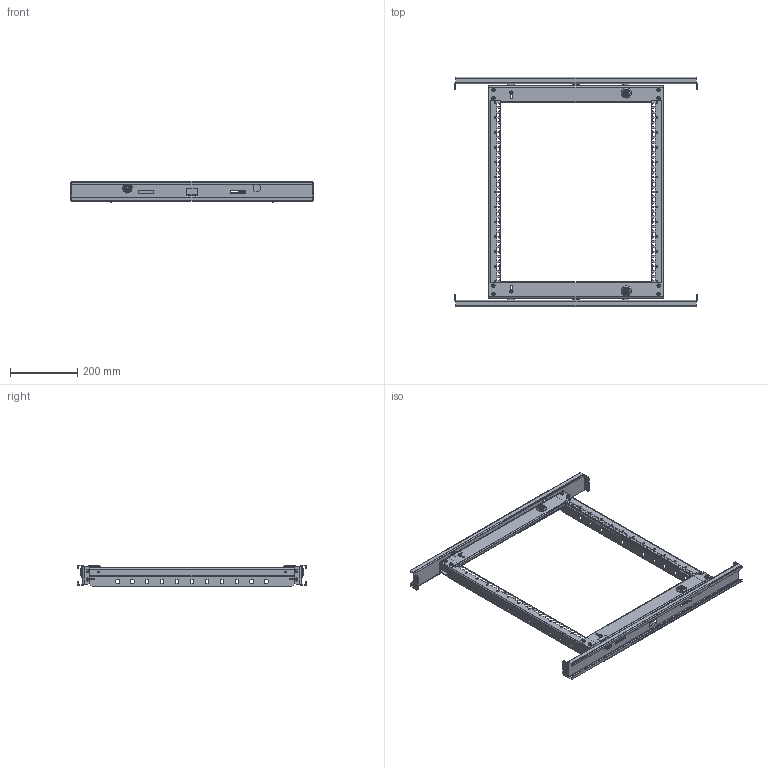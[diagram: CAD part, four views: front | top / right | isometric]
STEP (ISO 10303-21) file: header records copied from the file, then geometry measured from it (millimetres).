
FILE_DESCRIPTION (( 'STEP AP203' ), '1' );
FILE_NAME ('Ðàìà 19 ïîâîðîòíàÿ ÷àñòè÷íàÿ MC 80.80 IRP.STEP', '2024-02-22T17:51:32', ( '' ), ( '' ), 'SwSTEP 2.0', 'SolidWorks 2022', '' );
FILE_SCHEMA (( 'CONFIG_CONTROL_DESIGN' ));
Length unit declared in the file: millimetre
Products named in the file (17): Гайка замка 1000-111-JB; MC 180.60 R 00.01 Ось рамы поворотной; Шайба 12 Skiffy 003 1215 000 01; Рама 19 поворотная частичная MC 80.80 IRP; Демпфер Skiffy 049 1000 000 07; MC R 01.002 Скоба; Винт М5х16 DIN 7985_Винт M5x16 DIN 7985; Замок с двойной бородкой 5мм 100-7083_Замок с двойной бородкой 5мм 100-7083; MC 60 IRP 01.000-01СБ Профиль горизонтальный_MC 80 IRP 01.000-01СБ Профиль горизонтальный; MC 80 IRP 00.004 Балка рамы поворотной частичной_MC 80 IRP 00.004 Балка рамы поворотной частичной; Винт специальный самонарезающий оц. 5,2x11; MC 60 IRP 01.000СБ Профиль горизонтальный_MC 80 IRP 01.000СБ Профиль горизонтальный; Гайка квадратная оц. М5 DIN 562; MC 60 IRP 01.001 Профиль горизонтальный_MC 80 IRP 01.001 Профиль горизонтальный; MC 180 00.003 IRP Профиль вертикальный_MC 80 IRP 00.003 Профиль вертикальный; MC R 00.004 Втулка; MC 60 IRP 01.001-01 Профиль горизонтальный (MIR)_MC 80 IRP 01.001-01 Профиль горизонтальный (MIR)
Assembly tree (34 placements, depth 3):
  Рама 19 поворотная частичная MC 80.80 IRP
    MC 60 IRP 01.000СБ Профиль горизонтальный_MC 80 IRP 01.000СБ Профиль горизонтальный
      MC 60 IRP 01.001 Профиль горизонтальный_MC 80 IRP 01.001 Профиль горизонтальный
      MC R 01.002 Скоба
    MC 60 IRP 01.000-01СБ Профиль горизонтальный_MC 80 IRP 01.000-01СБ Профиль горизонтальный
      MC 60 IRP 01.001-01 Профиль горизонтальный (MIR)_MC 80 IRP 01.001-01 Профиль горизонтальный (MIR)
      MC R 01.002 Скоба
    MC 180 00.003 IRP Профиль вертикальный_MC 80 IRP 00.003 Профиль вертикальный  x2
    MC 80 IRP 00.004 Балка рамы поворотной частичной_MC 80 IRP 00.004 Балка рамы поворотной частичной  x2
    MC 180.60 R 00.01 Ось рамы поворотной  x2
    MC R 00.004 Втулка  x2
    Шайба 12 Skiffy 003 1215 000 01  x2
    Гайка замка 1000-111-JB  x2
    Замок с двойной бородкой 5мм 100-7083_Замок с двойной бородкой 5мм 100-7083  x2
    Демпфер Skiffy 049 1000 000 07  x2
    Винт специальный самонарезающий оц. 5,2x11  x8
    Винт М5х16 DIN 7985_Винт M5x16 DIN 7985  x2
    Гайка квадратная оц. М5 DIN 562  x2
Bounding box: 724 x 684.4 x 64.12 mm (x, y, z)
Volume: 825266.3 mm3; surface area: 841119.4 mm2
Topology: 38 solids, 38 shells, 2436 faces, 6556 edges, 4206 vertices
Faces by surface type: plane 1264, cylinder 908, cone 206, bspline 32, torus 18, sphere 8
Entity records: 39640 total; most frequent: CARTESIAN_POINT 7714, DIRECTION 6215, ORIENTED_EDGE 6164, EDGE_CURVE 3082, AXIS2_PLACEMENT_3D 2139, VERTEX_POINT 1985, LINE 1937, VECTOR 1937
